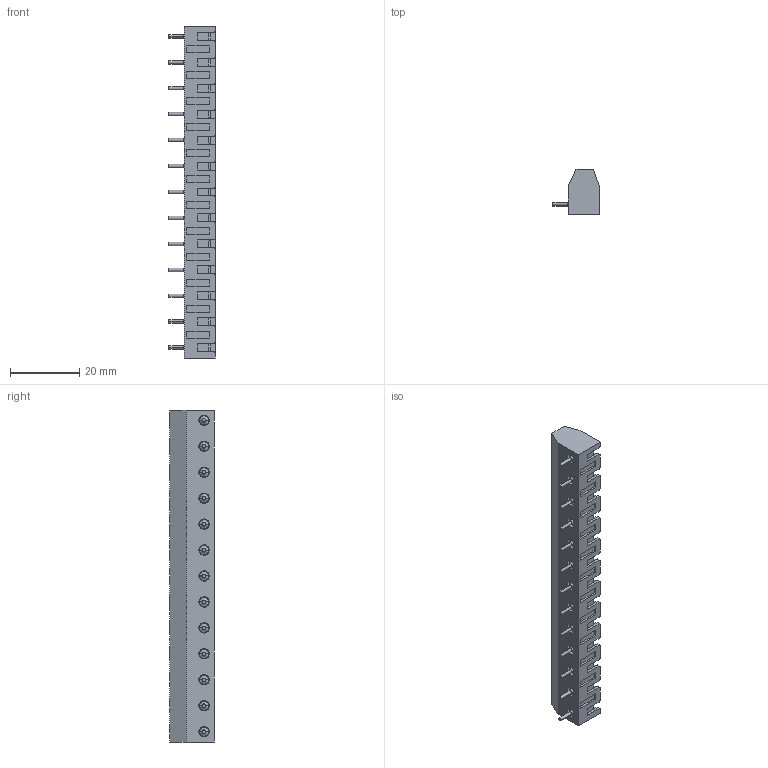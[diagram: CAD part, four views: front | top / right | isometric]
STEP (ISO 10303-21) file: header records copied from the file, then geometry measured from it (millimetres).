
FILE_DESCRIPTION (( 'STEP AP214' ), '1' );
FILE_NAME ('977-OP-SG-DS-13.STEP', '2008-01-23T03:31:45', ( ' ' ), ( '' ), 'SwSTEP 2.0', 'SolidWorks 2007', '' );
FILE_SCHEMA (( 'AUTOMOTIVE_DESIGN' ));
Length unit declared in the file: millimetre
Products named in the file (1): 977-OP-SG-DS-13
Bounding box: 13.4 x 13 x 96 mm (x, y, z)
Volume: 8169.2 mm3; surface area: 7475.8 mm2
Topology: 1 solids, 1 shells, 1045 faces, 2955 edges, 1962 vertices
Faces by surface type: plane 620, cylinder 302, bspline 65, cone 58
Entity records: 36059 total; most frequent: CARTESIAN_POINT 8715, ORIENTED_EDGE 5910, DIRECTION 5495, EDGE_CURVE 2955, VERTEX_POINT 1962, VECTOR 1843, LINE 1843, AXIS2_PLACEMENT_3D 1826
